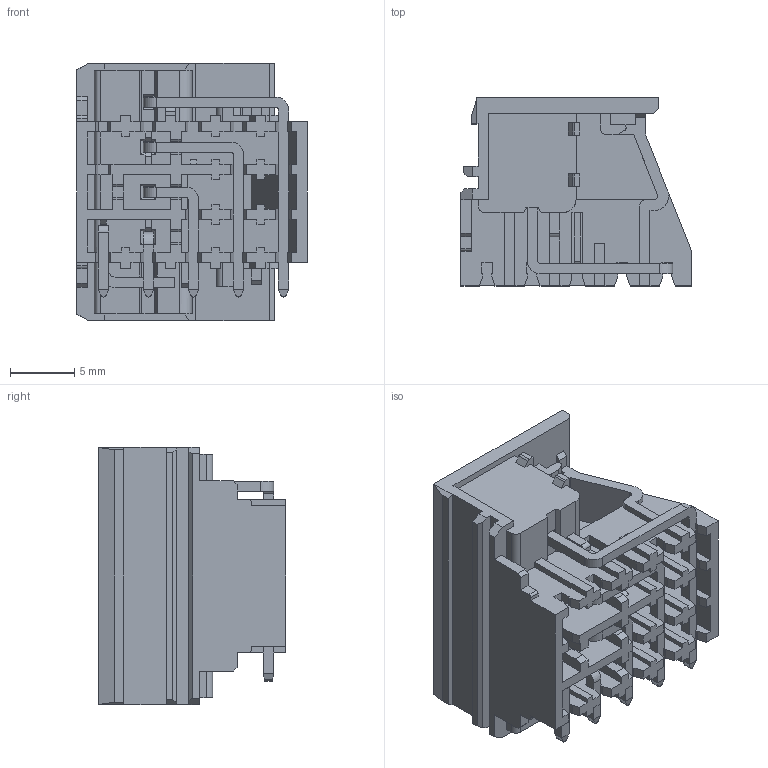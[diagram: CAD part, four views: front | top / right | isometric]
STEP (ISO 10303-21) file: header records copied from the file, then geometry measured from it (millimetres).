
FILE_DESCRIPTION((''),'2;1');
FILE_NAME('EU05P-L','2021-05-17T',('renkang.li'),(''),'CREO PARAMETRIC BY PTC INC, 2016260','CREO PARAMETRIC BY PTC INC, 2016260','');
FILE_SCHEMA(('CONFIG_CONTROL_DESIGN'));
Length unit declared in the file: millimetre
Products named in the file (1): EU05P-L
Bounding box: 17.9 x 14.6 x 20 mm (x, y, z)
Volume: 1667.1 mm3; surface area: 4242.4 mm2
Topology: 1 solids, 11 shells, 1001 faces, 2898 edges, 1898 vertices
Faces by surface type: plane 915, cylinder 60, cone 16, torus 10
Entity records: 32818 total; most frequent: CARTESIAN_POINT 6353, ORIENTED_EDGE 5796, DIRECTION 5054, EDGE_CURVE 2898, VECTOR 2596, LINE 2596, VERTEX_POINT 1898, AXIS2_PLACEMENT_3D 1229
